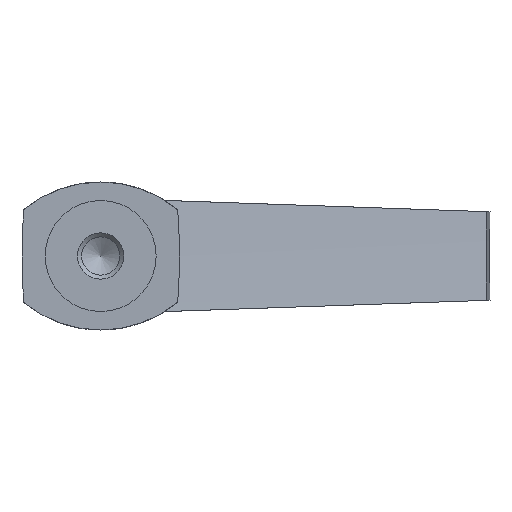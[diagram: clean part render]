
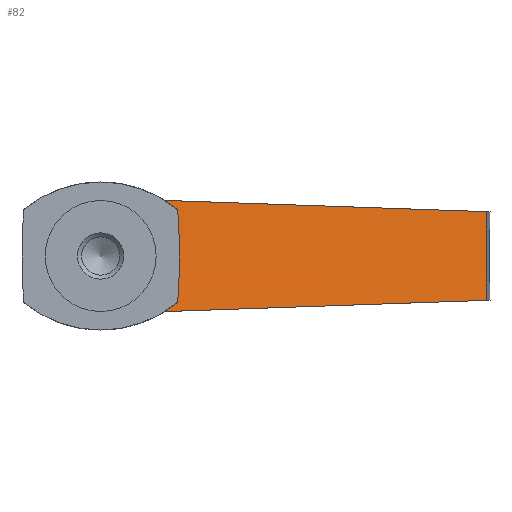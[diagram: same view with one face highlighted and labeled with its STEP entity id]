
A CAD part, front view. The second image highlights one B-rep face of the part: STEP entity #82.
In plain terms, the highlighted conical face has half-angle 70 degrees and reference radius 178 mm.
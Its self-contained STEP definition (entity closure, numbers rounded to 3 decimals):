
#82 = ADVANCED_FACE( '', ( #116 ), #117, .F. );
#116 = FACE_OUTER_BOUND( '', #173, .T. );
#117 = CONICAL_SURFACE( '', #174, 178., 1.222 );
#173 = EDGE_LOOP( '', ( #267, #268, #269, #270, #271, #272 ) );
#174 = AXIS2_PLACEMENT_3D( '', #273, #274, #275 );
#267 = ORIENTED_EDGE( '', *, *, #399, .F. );
#268 = ORIENTED_EDGE( '', *, *, #414, .T. );
#269 = ORIENTED_EDGE( '', *, *, #412, .T. );
#270 = ORIENTED_EDGE( '', *, *, #415, .F. );
#271 = ORIENTED_EDGE( '', *, *, #416, .F. );
#272 = ORIENTED_EDGE( '', *, *, #417, .F. );
#273 = CARTESIAN_POINT( '', ( 179., 12.088, 0. ) );
#274 = DIRECTION( '', ( 0., -1., 0. ) );
#275 = DIRECTION( '', ( 0., 0., -1. ) );
#399 = EDGE_CURVE( '', #458, #460, #461, .T. );
#412 = EDGE_CURVE( '', #483, #481, #484, .T. );
#414 = EDGE_CURVE( '', #458, #483, #486, .T. );
#415 = EDGE_CURVE( '', #487, #481, #488, .T. );
#416 = EDGE_CURVE( '', #489, #487, #490, .T. );
#417 = EDGE_CURVE( '', #460, #489, #491, .T. );
#458 = VERTEX_POINT( '', #552 );
#460 = VERTEX_POINT( '', #555 );
#461 = B_SPLINE_CURVE_WITH_KNOTS( '', 3, ( #556, #557, #558, #559 ), .UNSPECIFIED., .F., .F., ( 4, 4 ), ( 0., 0.002 ), .UNSPECIFIED. );
#481 = VERTEX_POINT( '', #585 );
#483 = VERTEX_POINT( '', #588 );
#484 = CIRCLE( '', #589, 137.347 );
#486 = LINE( '', #592, #593 );
#487 = VERTEX_POINT( '', #594 );
#488 = LINE( '', #595, #596 );
#489 = VERTEX_POINT( '', #597 );
#490 = B_SPLINE_CURVE_WITH_KNOTS( '', 3, ( #598, #599, #600, #601 ), .UNSPECIFIED., .F., .F., ( 4, 4 ), ( 0., 0.002 ), .UNSPECIFIED. );
#491 = B_SPLINE_CURVE_WITH_KNOTS( '', 3, ( #602, #603, #604, #605 ), .UNSPECIFIED., .F., .F., ( 4, 4 ), ( 0., 0.01 ), .UNSPECIFIED. );
#552 = CARTESIAN_POINT( '', ( 6.926, 14.207, -6.009 ) );
#555 = CARTESIAN_POINT( '', ( 8.322, 14.727, -5. ) );
#556 = CARTESIAN_POINT( '', ( 6.926, 14.207, -6.009 ) );
#557 = CARTESIAN_POINT( '', ( 7.411, 14.387, -5.705 ) );
#558 = CARTESIAN_POINT( '', ( 7.877, 14.561, -5.369 ) );
#559 = CARTESIAN_POINT( '', ( 8.322, 14.727, -5. ) );
#585 = CARTESIAN_POINT( '', ( 41.737, 26.885, 4.793 ) );
#588 = CARTESIAN_POINT( '', ( 41.737, 26.885, -4.793 ) );
#589 = AXIS2_PLACEMENT_3D( '', #686, #687, #688 );
#592 = CARTESIAN_POINT( '', ( 1.108, 12.088, -6.212 ) );
#593 = VECTOR( '', #690, 1000. );
#594 = CARTESIAN_POINT( '', ( 6.926, 14.207, 6.009 ) );
#595 = CARTESIAN_POINT( '', ( 1.108, 12.088, 6.212 ) );
#596 = VECTOR( '', #691, 1000. );
#597 = CARTESIAN_POINT( '', ( 8.322, 14.727, 5. ) );
#598 = CARTESIAN_POINT( '', ( 8.322, 14.727, 5. ) );
#599 = CARTESIAN_POINT( '', ( 7.877, 14.561, 5.369 ) );
#600 = CARTESIAN_POINT( '', ( 7.411, 14.387, 5.705 ) );
#601 = CARTESIAN_POINT( '', ( 6.926, 14.207, 6.009 ) );
#602 = CARTESIAN_POINT( '', ( 8.322, 14.727, -5. ) );
#603 = CARTESIAN_POINT( '', ( 8.596, 14.862, -1.667 ) );
#604 = CARTESIAN_POINT( '', ( 8.596, 14.862, 1.667 ) );
#605 = CARTESIAN_POINT( '', ( 8.322, 14.727, 5. ) );
#686 = CARTESIAN_POINT( '', ( 179., 26.885, 0. ) );
#687 = DIRECTION( '', ( 0., 1., 0. ) );
#688 = DIRECTION( '', ( 0., 0., 1. ) );
#690 = DIRECTION( '', ( 0.939, 0.342, 0.033 ) );
#691 = DIRECTION( '', ( 0.939, 0.342, -0.033 ) );
